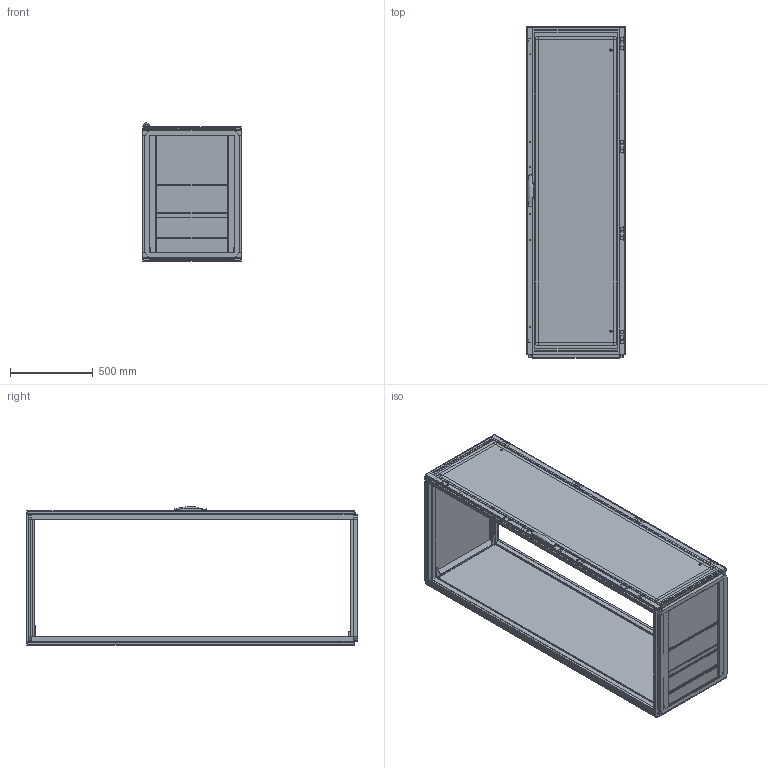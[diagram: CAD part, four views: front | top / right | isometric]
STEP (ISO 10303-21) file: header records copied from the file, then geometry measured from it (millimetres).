
FILE_DESCRIPTION(/* description */ ('STEP AP203'),/* implementation_level */ '2;1');
FILE_NAME(/* name */ 'MCS20068R5(0R)',/* time_stamp */ '2024-03-05T13:59:06+01:00',/* author */ ('License CC BY-ND 4.0'),/* organization */ ('CADENAS'),/* preprocessor_version */ 'ST-DEVELOPER v19.3',/* originating_system */ 'PARTsolutions',/* authorisation */ ' ');
FILE_SCHEMA (('CONFIG_CONTROL_DESIGN'));
Length unit declared in the file: millimetre
Products named in the file (20): MCS20068R5(0R); MCS20068R5_Frame; CRPK06(0)_Rear Panel Mounting Kit; CRP2006R5(0)_Rear Panel; DNMK01(0)_Rod catches; DNMK01(0)_Hinge; DN2006R5(0)_Plain door; LSSDXXXX(0)_Lock; LSSD2000(0)_Espagnolette Top; LSSD2000(0)_Espagnolette Bottom; CCR068R5(0)_Roof plate; MPA06(0)_Mounting Plate Brackets 1; MP2006(0)_P1; MPA06(0)_Mounting Plate Brackets 2; MPA06(0)_Mounting Plate Brackets 3; MPA06(0)_Mounting Plate Brackets 4; CBPW600D300(0)_Bottom Plate 3; CBPW600D200(0)_Bottom Plate 3; CBP060(0)_Bottom Plate 1; CBP060(0)_Bottom Plate 2
Assembly tree (32 placements, depth 2):
  MCS20068R5(0R)
    MCS20068R5_Frame
    CRPK06(0)_Rear Panel Mounting Kit  x8
    CRP2006R5(0)_Rear Panel
    DNMK01(0)_Rod catches  x4
    DNMK01(0)_Hinge  x4
    DN2006R5(0)_Plain door
    LSSDXXXX(0)_Lock
    LSSD2000(0)_Espagnolette Top
    LSSD2000(0)_Espagnolette Bottom
    CCR068R5(0)_Roof plate
    MPA06(0)_Mounting Plate Brackets 1
    MP2006(0)_P1
    MPA06(0)_Mounting Plate Brackets 2
    MPA06(0)_Mounting Plate Brackets 3
    MPA06(0)_Mounting Plate Brackets 4
    CBPW600D300(0)_Bottom Plate 3
    CBPW600D200(0)_Bottom Plate 3
    CBP060(0)_Bottom Plate 1
    CBP060(0)_Bottom Plate 2
Bounding box: 599 x 2006 x 834.9 mm (x, y, z)
Volume: 28515044.9 mm3; surface area: 12237621.8 mm2
Topology: 32 solids, 32 shells, 1459 faces, 3863 edges, 2547 vertices
Faces by surface type: plane 1274, cylinder 126, cone 58, torus 1
Full cylindrical faces by diameter (mm): 2.55 x2, 5 x22, 5.2 x2, 6 x6, 7 x6, 7.4 x4, 8 x18, 9 x2, 10 x12, 13 x2, 14 x4
Entity records: 35792 total; most frequent: CARTESIAN_POINT 6228, ORIENTED_EDGE 5874, DIRECTION 5524, EDGE_CURVE 2937, LINE 2650, VECTOR 2650, VERTEX_POINT 1991, AXIS2_PLACEMENT_3D 1437
